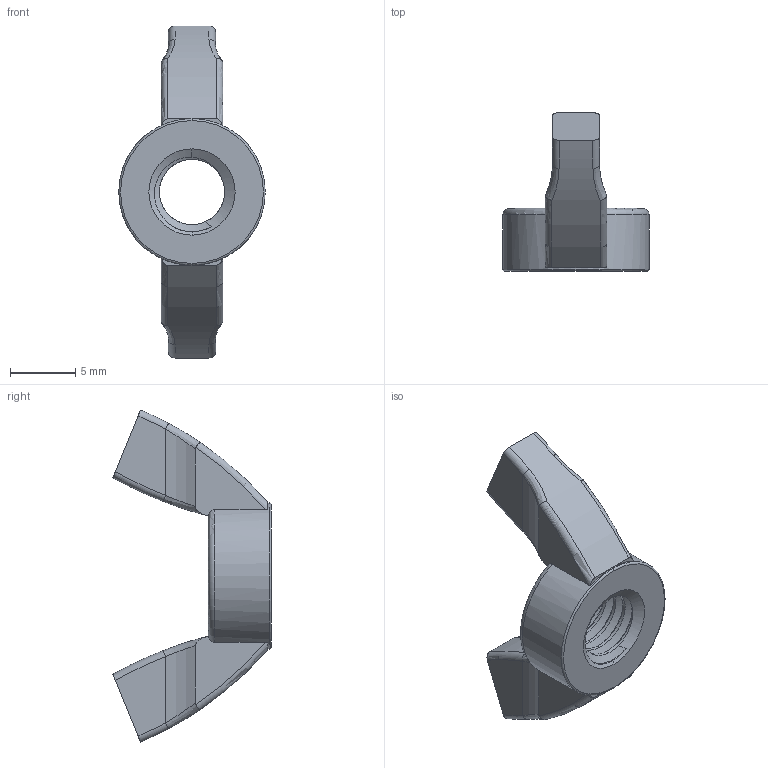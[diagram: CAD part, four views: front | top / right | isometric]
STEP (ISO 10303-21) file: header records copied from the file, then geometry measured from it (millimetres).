
FILE_DESCRIPTION (( 'STEP AP203' ), '1' );
FILE_NAME ('TANC-304-M6.STEP', '2026-08-24T08:14:26', ( '' ), ( '' ), 'SwSTEP 2.0', 'SolidWorks 2020', '' );
FILE_SCHEMA (( 'CONFIG_CONTROL_DESIGN' ));
Length unit declared in the file: millimetre
Products named in the file (1): TANC-304-M6
Bounding box: 11.2 x 12.1 x 25.4 mm (x, y, z)
Volume: 745.8 mm3; surface area: 773 mm2
Topology: 1 solids, 1 shells, 66 faces, 178 edges, 114 vertices
Faces by surface type: cylinder 19, torus 16, plane 16, bspline 11, cone 4
Entity records: 4275 total; most frequent: CARTESIAN_POINT 2706, ORIENTED_EDGE 356, DIRECTION 264, EDGE_CURVE 178, VERTEX_POINT 114, AXIS2_PLACEMENT_3D 112, B_SPLINE_CURVE_WITH_KNOTS 71, EDGE_LOOP 68
